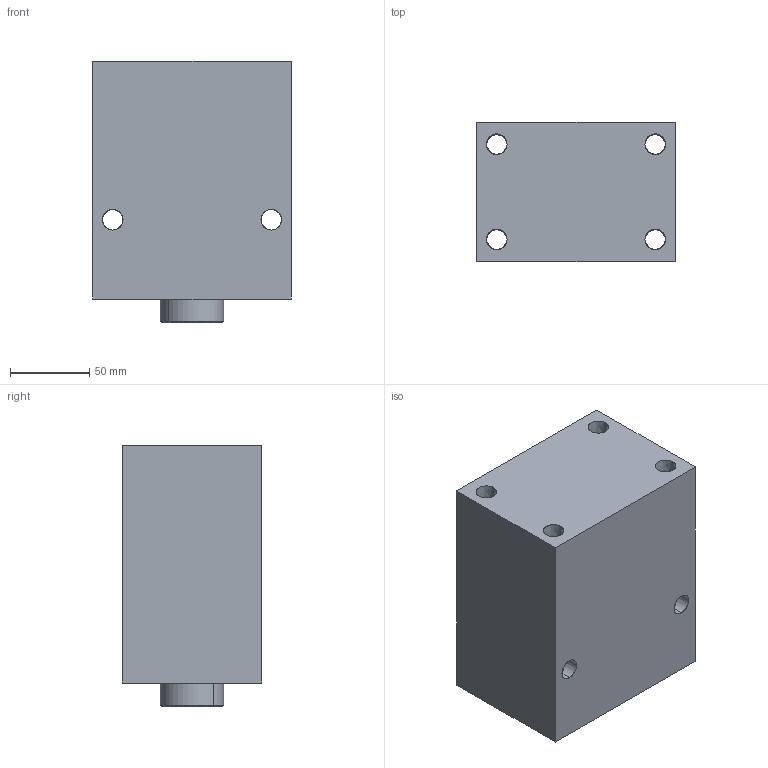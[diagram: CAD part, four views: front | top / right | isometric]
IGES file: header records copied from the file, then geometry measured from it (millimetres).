
Start section: SolidWorks IGES file using analytic representation for surfaces
Global section: file name: D:\karuppas\Clasp\3D model\Block cylinder B01C-Female thread\B01C-675F\Block cylinder B01C-675F.IGS; native system: SolidWorks 2017; preprocessor: SolidWorks 2017; author: pc; date: 220710.000458; units: millimetre
Bounding box: 125 x 88 x 165 mm (x, y, z)
Surface area: 140733.7 mm2 (no closed solid volume)
Topology: 0 solids, 0 shells, 337 faces, 5080 edges, 5074 vertices
Faces by surface type: bspline 285, revolution 52
